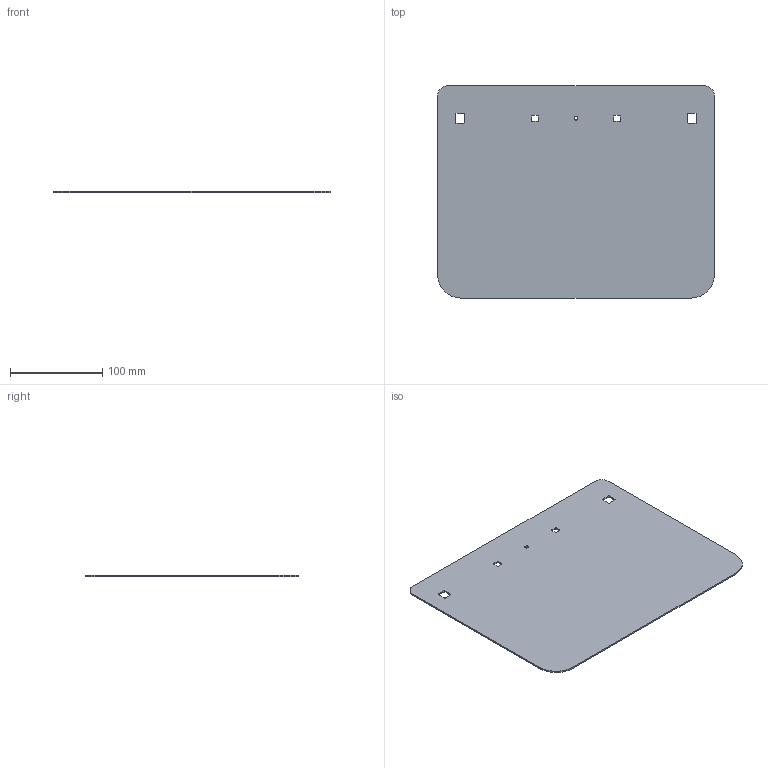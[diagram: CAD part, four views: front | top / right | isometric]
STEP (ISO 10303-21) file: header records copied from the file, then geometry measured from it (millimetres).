
FILE_DESCRIPTION(/* description */ (''),/* implementation_level */ '2;1');
FILE_NAME(/* name */ 'F:/Phasespacce 2019/VR Rift/Face Shield Poly/Production/Face Shield with PolyCarbonate frame/Good Face Shield 4 polycarbonate Frame v7.step',/* time_stamp */ '2020-03-31T17:39:04-07:00',/* author */ (''),/* organization */ (''),/* preprocessor_version */ 'ST-DEVELOPER v18',/* originating_system */ 'Autodesk Translation Framework v8.12.0.6',/* authorisation */ '');
FILE_SCHEMA (('AUTOMOTIVE_DESIGN { 1 0 10303 214 3 1 1 }','MODEL_BASED_INTEGRATED_MANUFACTURING_SCHEMA','PROCESS_PLANNING_SCHEMA'));
Length unit declared in the file: millimetre
Products named in the file (1): Good Face Shield 4 polycarbonate Frame
Bounding box: 300 x 230 x 1.58 mm (x, y, z)
Volume: 108025.3 mm3; surface area: 138597.5 mm2
Topology: 1 solids, 1 shells, 43 faces, 123 edges, 82 vertices
Faces by surface type: plane 22, cylinder 21
Full cylindrical faces by diameter (mm): 4 x1
Entity records: 1472 total; most frequent: DIRECTION 253, CARTESIAN_POINT 249, ORIENTED_EDGE 246, EDGE_CURVE 123, AXIS2_PLACEMENT_3D 86, VERTEX_POINT 82, LINE 81, VECTOR 81
